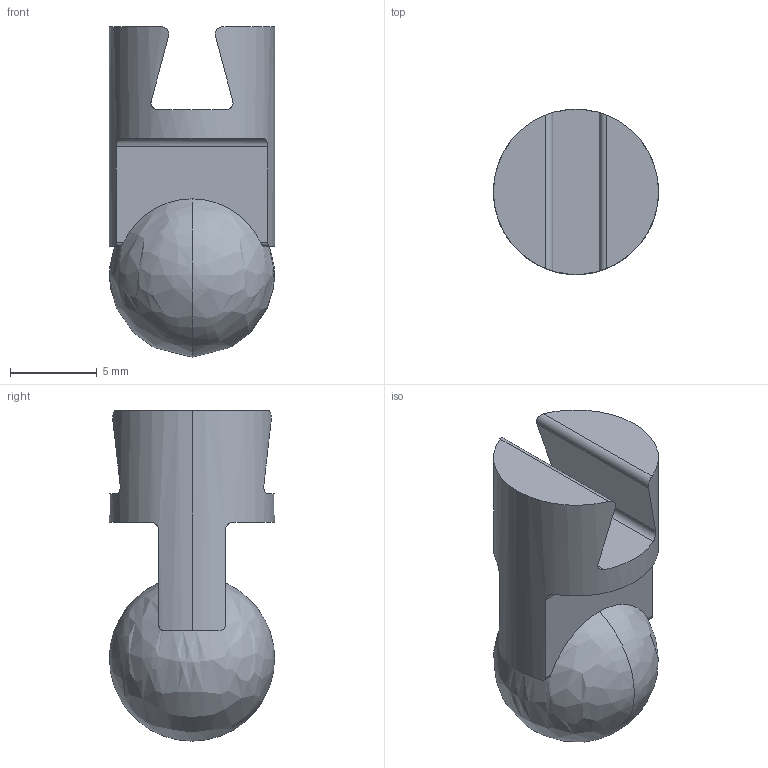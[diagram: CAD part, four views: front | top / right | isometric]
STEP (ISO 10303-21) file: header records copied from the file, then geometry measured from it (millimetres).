
FILE_DESCRIPTION (( 'STEP AP203' ), '1' );
FILE_NAME ('ALA10_10MM_ADAPTOR_BALL.STEP', '2020-12-17T20:52:28', ( '' ), ( '' ), 'SwSTEP 2.0', 'SolidWorks 2020', '' );
FILE_SCHEMA (( 'CONFIG_CONTROL_DESIGN' ));
Length unit declared in the file: inch
Products named in the file (1): ALA10_10MM_ADAPTOR_BALL
Bounding box: 9.53 x 9.53 x 19.05 mm (x, y, z)
Volume: 895.6 mm3; surface area: 725.9 mm2
Topology: 1 solids, 1 shells, 25 faces, 75 edges, 48 vertices
Faces by surface type: cylinder 12, plane 11, bspline 2
Entity records: 1073 total; most frequent: CARTESIAN_POINT 391, ORIENTED_EDGE 142, DIRECTION 108, EDGE_CURVE 71, VERTEX_POINT 48, AXIS2_PLACEMENT_3D 43, B_SPLINE_CURVE_WITH_KNOTS 26, FACE_OUTER_BOUND 25
